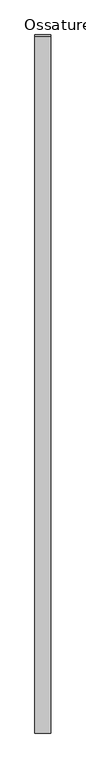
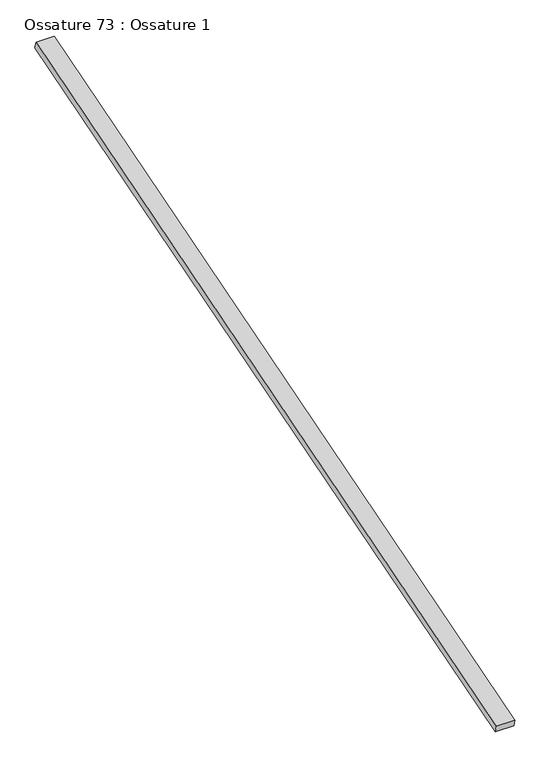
"""IFC4 building model written with IfcOpenShell, lengths in millimetres: beam geometry, Ossature 73 : Ossature 1."""

from ifc_helpers import new_model, si_unit, frame, origin, place, context, project, spatial, polyline, outline, extrude, source, transform, mapped, element, save


def ossature_73_ossature_1_2a825288(model_context):
    return source(origin(), model_context, "Body", "SweptSolid", [
        extrude(outline(polyline([(0.0, 0.0), (0.0, -4543.0299679), (-100.0, -4543.0299679), (-100.0, 0.0), (0.0, 0.0)])), frame((17675.0466393, -833.3913565, 8153.6336115), z_axis=(0.0, -0.28734788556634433, 0.9578262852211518), x_axis=(-1.0, 0.0, 0.0)), (0.0, 0.0, 1.0), 40.0),
    ])


if __name__ == "__main__":
    model = new_model("IFC4")
    model_context = context("Model", 3, world=origin())
    ifc_project = project(units=[si_unit("LENGTHUNIT", "METRE", prefix="MILLI")], contexts=[model_context])
    site = spatial("IfcSite", under=ifc_project)
    building = spatial("IfcBuilding", under=site)
    placement = place(None, origin())
    ossature_73_ossature_1_shape = ossature_73_ossature_1_2a825288(model_context)
    element("IfcBeam", 1, ObjectType="Ossature 73 : Ossature 1", at=placement, inside=building, context=model_context, shape_type="MappedRepresentation", body=[
        mapped(ossature_73_ossature_1_shape, transform((0.0, 0.0, 0.0), x_axis=(1.0, 0.0, 0.0), y_axis=(0.0, 1.0, 0.0), z_axis=(0.0, 0.0, 1.0))),
    ])
    save(model, "model.ifc")
